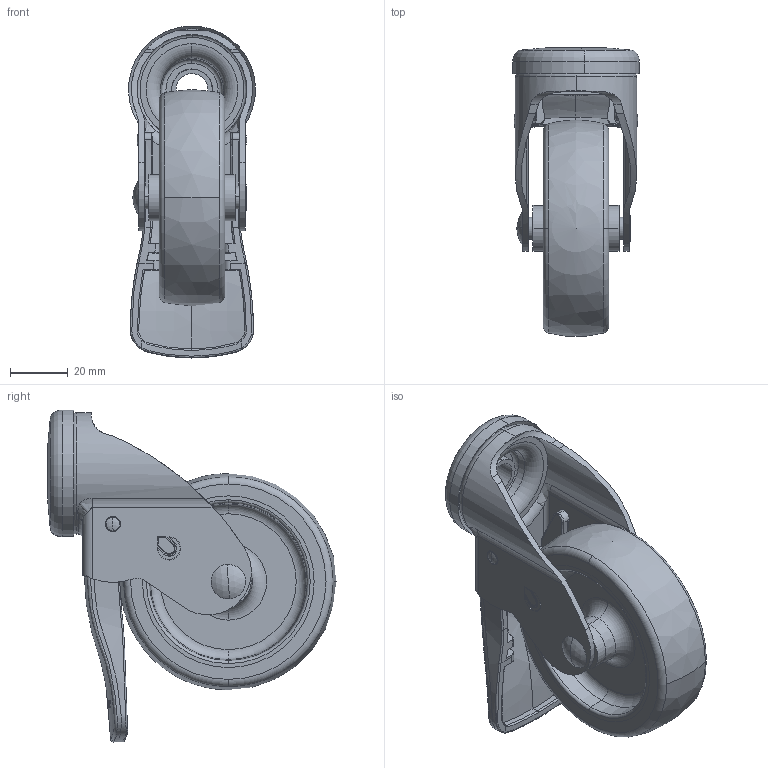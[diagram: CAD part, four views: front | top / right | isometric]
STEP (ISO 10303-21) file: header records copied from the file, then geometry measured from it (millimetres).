
FILE_DESCRIPTION (( 'STEP AP203' ), '1' );
FILE_NAME ('200313_STEP.STEP', '2014-06-12T09:49:37', ( 'admin' ), ( 'Hewlett-Packard Company' ), 'SwSTEP 2.0', 'SolidWorks 2011', '' );
FILE_SCHEMA (( 'CONFIG_CONTROL_DESIGN' ));
Length unit declared in the file: millimetre
Products named in the file (1): 200313_STEP
Bounding box: 43.97 x 99.86 x 115.02 mm (x, y, z)
Volume: 92635.1 mm3; surface area: 61833.5 mm2
Topology: 29 solids, 29 shells, 648 faces, 1740 edges, 1130 vertices
Faces by surface type: plane 246, bspline 132, cylinder 118, torus 66, sphere 54, cone 32
Entity records: 25667 total; most frequent: CARTESIAN_POINT 11478, ORIENTED_EDGE 3236, DIRECTION 2426, EDGE_CURVE 1618, VERTEX_POINT 1058, AXIS2_PLACEMENT_3D 964, EDGE_LOOP 698, B_SPLINE_CURVE_WITH_KNOTS 649
